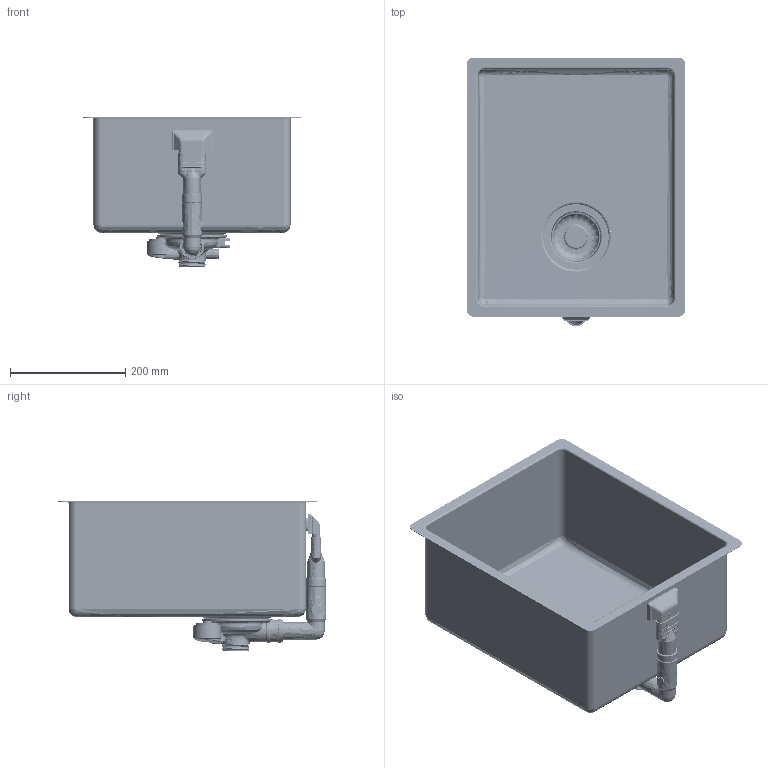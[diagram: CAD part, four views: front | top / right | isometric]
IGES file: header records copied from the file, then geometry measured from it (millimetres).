
Global section: file name: J:\2016\CLX\FRANKE\materiale ricevuto\Sinks\Sinks\Franke Box\Requested\210_110 34\BXX_210_110_34.igs; native system: Rhinoceros ( Jun  9 2014 ); preprocessor: Trout Lake IGES 012 Jun  9 2014; date: 160408.084031; units: millimetre
Bounding box: 380 x 466.5 x 259.82 mm (x, y, z)
Surface area: 1093390.5 mm2 (no closed solid volume)
Topology: 0 solids, 0 shells, 5600 faces, 49898 edges, 49712 vertices
Faces by surface type: bspline 5600
